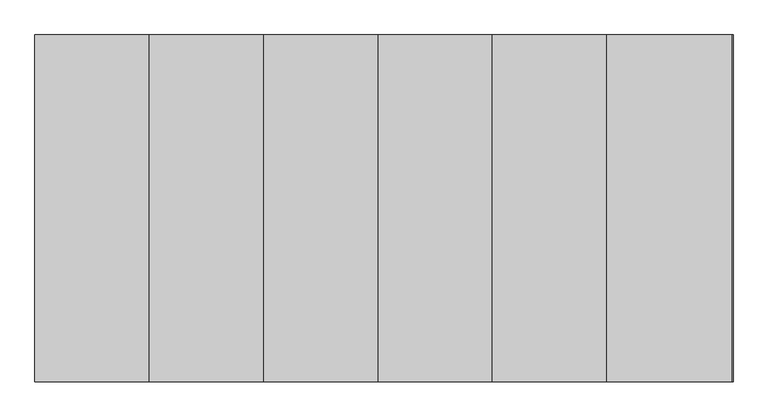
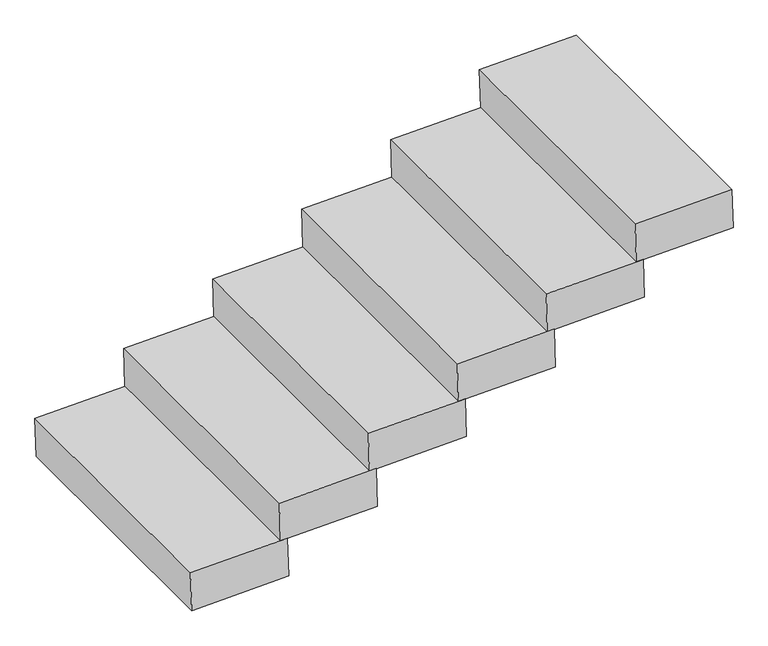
"""IFC4 building model written with IfcOpenShell, lengths in millimetres: stair flight geometry, Blockstufe - vollkantig - B 36cm, H 15cm."""

import ifcopenshell
import ifcopenshell.guid

model = None  # the IFC model being written
_history = None  # IfcOwnerHistory: only IFC2X3 demands one
_inside = {}  # id of a spatial element -> (the spatial element, [elements in it])
_under = {}  # id of a project, library or spatial element -> (it, [spatial elements below it])
_declared = {}  # id of a project -> (the project, [libraries it declares])
_typed = {}  # id of a type object -> (the type object, [elements of that type])
_made_of = {}  # id of a material, layer set ... -> (it, [elements and type objects made of it])


def new_model(schema):
    """Start an empty IFC model of exactly this schema.

    Asked for "IFC4X3", IfcOpenShell would pick the latest addendum, in which some entities
    have other attributes; the version numbers below select the first issue.
    IFC2X3 requires an IfcOwnerHistory on every rooted entity: one is made here for all.
    """
    global model, _history
    if schema == "IFC4X3":
        model = ifcopenshell.file(schema_version=(4, 3, 0, 0))
    else:
        model = ifcopenshell.file(schema=schema)
    _inside.clear()
    _under.clear()
    _declared.clear()
    _typed.clear()
    _made_of.clear()
    _history = None
    if model.schema == "IFC2X3":
        org = make("IfcOrganization", Name="unknown")
        user = make(
            "IfcPersonAndOrganization",
            ThePerson=make("IfcPerson", FamilyName="unknown"),
            TheOrganization=org,
        )
        app = make(
            "IfcApplication",
            ApplicationDeveloper=org,
            Version="unknown",
            ApplicationFullName="unknown",
            ApplicationIdentifier="unknown",
        )
        _history = make(
            "IfcOwnerHistory",
            OwningUser=user,
            OwningApplication=app,
            ChangeAction="ADDED",
            CreationDate=0,
        )
    return model


def make(cls, **values):
    """One entity of the class cls with the attributes given. An attribute that is None is left unset."""
    return model.create_entity(
        cls, **{name: value for name, value in values.items() if value is not None}
    )


def rooted(cls, **values):
    """An entity with a GlobalId (a new one), such as an element, a storey or a relation."""
    return make(cls, GlobalId=ifcopenshell.guid.new(), OwnerHistory=_history, **values)


def si_unit(unit_type, name, prefix=None):
    """IfcSIUnit, for example si_unit("LENGTHUNIT", "METRE", prefix="MILLI")."""
    return make("IfcSIUnit", UnitType=unit_type, Prefix=prefix, Name=name)


def assignment(units):
    """IfcUnitAssignment: the units of a project."""
    return None if units is None else make("IfcUnitAssignment", Units=units)


def point(xyz):
    """IfcCartesianPoint."""
    return None if xyz is None else make("IfcCartesianPoint", Coordinates=xyz)


def direction(xyz):
    """IfcDirection."""
    return None if xyz is None else make("IfcDirection", DirectionRatios=xyz)


def frame(location, z_axis=None, x_axis=None):
    """IfcAxis2Placement3D, a coordinate frame: its origin and axes. An axis left out is left unset."""
    return make(
        "IfcAxis2Placement3D",
        Location=point(location),
        Axis=direction(z_axis),
        RefDirection=direction(x_axis),
    )


def origin():
    """The frame at (0, 0, 0) with its axes left unset."""
    return frame((0.0, 0.0, 0.0))


def place(relative_to, where):
    """IfcLocalPlacement: puts the frame where relative to a parent placement (None: the world)."""
    return make(
        "IfcLocalPlacement", PlacementRelTo=relative_to, RelativePlacement=where
    )


def context(
    kind, dimensions, precision=None, world=None, true_north=None, identifier=None
):
    """IfcGeometricRepresentationContext, for example the 3D "Model" context."""
    return make(
        "IfcGeometricRepresentationContext",
        ContextIdentifier=identifier,
        ContextType=kind,
        CoordinateSpaceDimension=dimensions,
        Precision=precision,
        WorldCoordinateSystem=world,
        TrueNorth=true_north,
    )


def project(units=None, contexts=None):
    """IfcProject with its units and contexts."""
    return rooted(
        "IfcProject",
        Name="project",
        RepresentationContexts=contexts,
        UnitsInContext=assignment(units),
    )


def spatial(cls, under=None, at=None, **own):
    """A site, building, storey or space (cls), placed at a placement, below another one or the project."""
    s = rooted(cls, ObjectPlacement=at, **own)
    if under is not None:
        _under.setdefault(under.id(), (under, []))[1].append(s)
    return s


def polyline(points):
    """IfcPolyline through the points."""
    return make("IfcPolyline", Points=[point(p) for p in points])


def outline(outer, holes=None, kind="AREA"):
    """IfcArbitraryClosedProfileDef: a profile drawn as a closed curve; with holes, ...WithVoids."""
    if holes is None:
        return make("IfcArbitraryClosedProfileDef", ProfileType=kind, OuterCurve=outer)
    return make(
        "IfcArbitraryProfileDefWithVoids",
        ProfileType=kind,
        OuterCurve=outer,
        InnerCurves=holes,
    )


def extrude(swept, where, along, depth):
    """IfcExtrudedAreaSolid: the profile swept, set in the frame where, extruded along a direction by depth."""
    return make(
        "IfcExtrudedAreaSolid",
        SweptArea=swept,
        Position=where,
        ExtrudedDirection=direction(along),
        Depth=depth,
    )


def shape(context_of_items, identifier, shape_type, items):
    """IfcShapeRepresentation: the items that make up one representation, for example the "Body"."""
    return make(
        "IfcShapeRepresentation",
        ContextOfItems=context_of_items,
        RepresentationIdentifier=identifier,
        RepresentationType=shape_type,
        Items=items,
    )


def source(mapping_origin, context_of_items, identifier, shape_type, items):
    """IfcRepresentationMap: a shape defined once, which mapped items show again and again."""
    return make(
        "IfcRepresentationMap",
        MappingOrigin=mapping_origin,
        MappedRepresentation=shape(context_of_items, identifier, shape_type, items),
    )


def transform(
    local_origin,
    x_axis=None,
    y_axis=None,
    z_axis=None,
    scale=None,
    scale2=None,
    scale3=None,
    uniform=True,
):
    """IfcCartesianTransformationOperator3D, or its non-uniform kind. x_axis, y_axis, z_axis: its Axis1, 2, 3."""
    if uniform:
        return make(
            "IfcCartesianTransformationOperator3D",
            Axis1=direction(x_axis),
            Axis2=direction(y_axis),
            LocalOrigin=point(local_origin),
            Scale=scale,
            Axis3=direction(z_axis),
        )
    return make(
        "IfcCartesianTransformationOperator3DnonUniform",
        Axis1=direction(x_axis),
        Axis2=direction(y_axis),
        LocalOrigin=point(local_origin),
        Scale=scale,
        Axis3=direction(z_axis),
        Scale2=scale2,
        Scale3=scale3,
    )


def mapped(mapping_source, mapping_target):
    """IfcMappedItem: shows the shape of a source again, moved by a transform."""
    return make(
        "IfcMappedItem", MappingSource=mapping_source, MappingTarget=mapping_target
    )


def made_of(thing, what):
    """Note that an element or type object is made of a material, layer set ...; save() writes the relation."""
    if what is not None:
        _made_of.setdefault(what.id(), (what, []))[1].append(thing)
    return thing


def element(
    cls,
    number,
    at=None,
    inside=None,
    cuts=None,
    type_object=None,
    material=None,
    context=None,
    identifier="Body",
    shape_type=None,
    held_by="IfcProductDefinitionShape",
    body=None,
    shapes=None,
    **own,
):
    """One element of the class cls, such as IfcWall. Its Tag is "e" and its number.

    at: its placement. inside: the storey or other place that contains it. cuts: it is an
    opening in that element (IfcRelVoidsElement). A single representation is given by context,
    identifier, shape_type and body (its items); several are given by shapes. held_by: the class
    of the entity that holds the representations. save() writes the other relations.
    """
    e = rooted(cls, Tag="e%d" % number, ObjectPlacement=at, **own)
    if body is not None:
        shapes = [shape(context, identifier, shape_type, body)]
    if shapes is not None:
        e.Representation = make(held_by, Representations=shapes)
    if inside is not None:
        _inside.setdefault(inside.id(), (inside, []))[1].append(e)
    if cuts is not None:
        rooted(
            "IfcRelVoidsElement", RelatingBuildingElement=cuts, RelatedOpeningElement=e
        )
    if type_object is not None:
        _typed.setdefault(type_object.id(), (type_object, []))[1].append(e)
    return made_of(e, material)


def aggregate(whole, parts):
    """IfcRelAggregates: a whole, such as a stair, and the parts it consists of."""
    return rooted("IfcRelAggregates", RelatingObject=whole, RelatedObjects=parts)


def save(model, path):
    """Write the relations noted so far, then the file.

    IfcRelAggregates (storeys below a building ...), IfcRelContainedInSpatialStructure (elements
    in a storey), IfcRelDefinesByType, IfcRelAssociatesMaterial and IfcRelDeclares: one each for
    every whole, place, type object, material and project.
    """
    for whole, parts in _under.values():
        aggregate(whole, parts)
    for where, things in _inside.values():
        rooted(
            "IfcRelContainedInSpatialStructure",
            RelatedElements=things,
            RelatingStructure=where,
        )
    for kind, things in _typed.values():
        rooted("IfcRelDefinesByType", RelatedObjects=things, RelatingType=kind)
    for what, things in _made_of.values():
        rooted("IfcRelAssociatesMaterial", RelatedObjects=things, RelatingMaterial=what)
    for by, libraries in _declared.values():
        rooted("IfcRelDeclares", RelatingContext=by, RelatedDefinitions=libraries)
    model.write(path)


def stair_flight_7bdfbe37(model_context):
    return source(origin(), model_context, "Body", "SweptSolid", [
        extrude(outline(polyline([(0.0, -360.0), (0.0, 0.0), (1000.0, 0.0), (1000.0, -360.0), (0.0, -360.0)])), frame((93.9710847, -4825.8978657, 43.2), z_axis=(-0.02792163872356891, 0.0, 0.9996101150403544), x_axis=(0.0, 1.0, 0.0)), (0.0, 0.0, 1.0), 150.0),
        extrude(outline(polyline([(0.0, -360.0), (0.0, 0.0), (1000.0, 0.0), (1000.0, -360.0), (0.0, -360.0)])), frame((423.9710847, -4825.8978657, 201.4), z_axis=(-0.02792163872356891, 0.0, 0.9996101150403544), x_axis=(0.0, 1.0, 0.0)), (0.0, 0.0, 1.0), 150.0),
        extrude(outline(polyline([(0.0, -360.0), (0.0, 0.0), (1000.0, 0.0), (1000.0, -360.0), (0.0, -360.0)])), frame((753.9710847, -4825.8978657, 359.6), z_axis=(-0.02792163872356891, 0.0, 0.9996101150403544), x_axis=(0.0, 1.0, 0.0)), (0.0, 0.0, 1.0), 150.0),
        extrude(outline(polyline([(0.0, -360.0), (0.0, 0.0), (1000.0, 0.0), (1000.0, -360.0), (0.0, -360.0)])), frame((1083.9710847, -4825.8978657, 517.8), z_axis=(-0.02792163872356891, 0.0, 0.9996101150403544), x_axis=(0.0, 1.0, 0.0)), (0.0, 0.0, 1.0), 150.0),
        extrude(outline(polyline([(0.0, -360.0), (0.0, 0.0), (1000.0, 0.0), (1000.0, -360.0), (0.0, -360.0)])), frame((1413.9710847, -4825.8978657, 676.0), z_axis=(-0.02792163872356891, 0.0, 0.9996101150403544), x_axis=(0.0, 1.0, 0.0)), (0.0, 0.0, 1.0), 150.0),
        extrude(outline(polyline([(0.0, -360.0), (0.0, 0.0), (1000.0, 0.0), (1000.0, -360.0), (0.0, -360.0)])), frame((1743.9710847, -4825.8978657, 834.2), z_axis=(-0.02792163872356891, 0.0, 0.9996101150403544), x_axis=(0.0, 1.0, 0.0)), (0.0, 0.0, 1.0), 150.0),
    ])


if __name__ == "__main__":
    model = new_model("IFC4")
    model_context = context("Model", 3, world=origin())
    ifc_project = project(units=[si_unit("LENGTHUNIT", "METRE", prefix="MILLI")], contexts=[model_context])
    site = spatial("IfcSite", under=ifc_project)
    building = spatial("IfcBuilding", under=site)
    placement = place(None, origin())
    stair_flight_shape = stair_flight_7bdfbe37(model_context)
    element("IfcStairFlight", 1, ObjectType="Blockstufe - vollkantig - B 36cm, H 15cm", at=placement, inside=building, context=model_context, shape_type="MappedRepresentation", body=[
        mapped(stair_flight_shape, transform((0.0, 0.0, 0.0), x_axis=(1.0, 0.0, 0.0), y_axis=(0.0, 1.0, 0.0), z_axis=(0.0, 0.0, 1.0))),
    ])
    save(model, "model.ifc")
